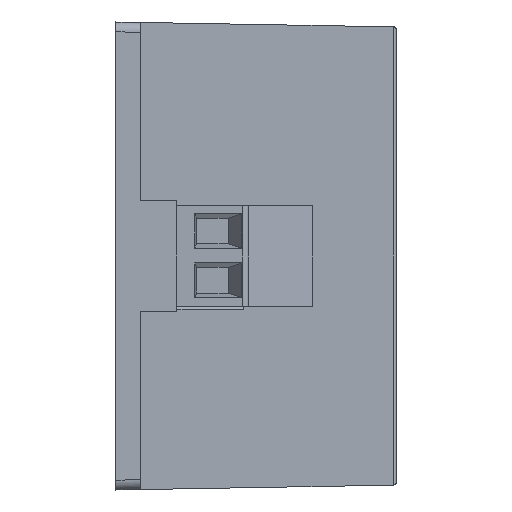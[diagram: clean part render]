
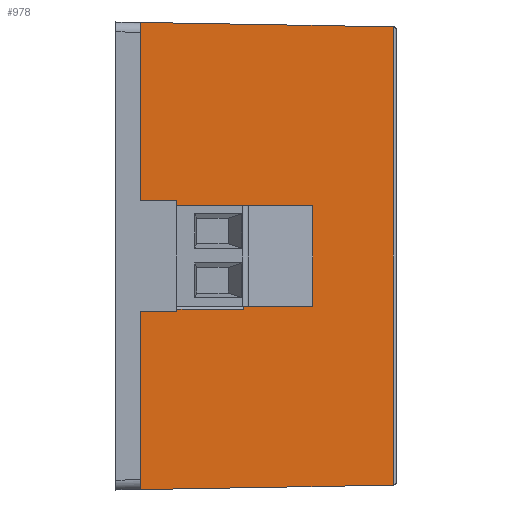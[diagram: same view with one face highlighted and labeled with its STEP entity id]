
A CAD part, left-side view. The second image highlights one B-rep face of the part: STEP entity #978.
In plain terms, the highlighted planar face has unit normal (-1, -0.018, 0).
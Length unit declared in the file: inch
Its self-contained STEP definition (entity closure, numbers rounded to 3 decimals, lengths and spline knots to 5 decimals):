
#166 = DIRECTION ( 'NONE',  ( -0.017, 1., 0.017 ) ) ;
#187 = LINE ( 'NONE', #18807, #5958 ) ;
#521 = LINE ( 'NONE', #16786, #6311 ) ;
#816 = VECTOR ( 'NONE', #21564, 39.37008 ) ;
#967 = VERTEX_POINT ( 'NONE', #3910 ) ;
#978 = ADVANCED_FACE ( 'NONE', ( #18346 ), #23739, .T. ) ;
#1321 = LINE ( 'NONE', #11883, #12891 ) ;
#1534 = DIRECTION ( 'NONE',  ( 0., 0., -1. ) ) ;
#1575 = DIRECTION ( 'NONE',  ( -0.017, 1., -0.017 ) ) ;
#1625 = ORIENTED_EDGE ( 'NONE', *, *, #26011, .T. ) ;
#2077 = ORIENTED_EDGE ( 'NONE', *, *, #7082, .T. ) ;
#2303 = CARTESIAN_POINT ( 'NONE',  ( -1.78117, -0.24409, -0.22015 ) ) ;
#2349 = CARTESIAN_POINT ( 'NONE',  ( -1.78372, -0.09843, -0.22269 ) ) ;
#3910 = CARTESIAN_POINT ( 'NONE',  ( -1.78372, -0.09843, 0.22269 ) ) ;
#3993 = ORIENTED_EDGE ( 'NONE', *, *, #14186, .T. ) ;
#4387 = VECTOR ( 'NONE', #20240, 39.37008 ) ;
#4796 = VECTOR ( 'NONE', #166, 39.37008 ) ;
#5381 = EDGE_CURVE ( 'NONE', #24095, #11467, #521, .T. ) ;
#5958 = VECTOR ( 'NONE', #23163, 39.37008 ) ;
#6311 = VECTOR ( 'NONE', #1575, 39.37008 ) ;
#6368 = CARTESIAN_POINT ( 'NONE',  ( -1.76608, -1.10847, -0.93504 ) ) ;
#6453 = DIRECTION ( 'NONE',  ( -1., -0.017, 0. ) ) ;
#7082 = EDGE_CURVE ( 'NONE', #967, #27466, #187, .T. ) ;
#7329 = CARTESIAN_POINT ( 'NONE',  ( -1.76608, -1.10847, 0.91569 ) ) ;
#7558 = EDGE_CURVE ( 'NONE', #11467, #9513, #8625, .T. ) ;
#8625 = LINE ( 'NONE', #13560, #25258 ) ;
#8958 = VECTOR ( 'NONE', #1534, 39.37008 ) ;
#9513 = VERTEX_POINT ( 'NONE', #16901 ) ;
#9929 = EDGE_LOOP ( 'NONE', ( #3993, #1625, #2077, #28131, #25800, #21519, #10258, #16320 ) ) ;
#10069 = CARTESIAN_POINT ( 'NONE',  ( -1.78372, -0.09843, -0.93504 ) ) ;
#10258 = ORIENTED_EDGE ( 'NONE', *, *, #23414, .T. ) ;
#10619 = VERTEX_POINT ( 'NONE', #15364 ) ;
#11467 = VERTEX_POINT ( 'NONE', #2349 ) ;
#11883 = CARTESIAN_POINT ( 'NONE',  ( -1.78372, -0.09843, -0.93332 ) ) ;
#12891 = VECTOR ( 'NONE', #14047, 39.37008 ) ;
#13560 = CARTESIAN_POINT ( 'NONE',  ( -1.78372, -0.09843, -0.93504 ) ) ;
#14047 = DIRECTION ( 'NONE',  ( 0.017, -1., 0.017 ) ) ;
#14186 = EDGE_CURVE ( 'NONE', #23363, #21781, #22127, .T. ) ;
#15364 = CARTESIAN_POINT ( 'NONE',  ( -1.76608, -1.10847, -0.91569 ) ) ;
#15864 = CARTESIAN_POINT ( 'NONE',  ( -1.78117, -0.24409, 0.22015 ) ) ;
#16320 = ORIENTED_EDGE ( 'NONE', *, *, #16882, .F. ) ;
#16786 = CARTESIAN_POINT ( 'NONE',  ( -1.78117, -0.24409, -0.22015 ) ) ;
#16882 = EDGE_CURVE ( 'NONE', #23363, #10619, #24590, .T. ) ;
#16901 = CARTESIAN_POINT ( 'NONE',  ( -1.78372, -0.09843, -0.93332 ) ) ;
#17613 = CARTESIAN_POINT ( 'NONE',  ( -1.78372, -0.09843, 0.93332 ) ) ;
#17832 = AXIS2_PLACEMENT_3D ( 'NONE', #19469, #6453, #21635 ) ;
#18346 = FACE_OUTER_BOUND ( 'NONE', #9929, .T. ) ;
#18807 = CARTESIAN_POINT ( 'NONE',  ( -1.78372, -0.09843, 0.22269 ) ) ;
#19469 = CARTESIAN_POINT ( 'NONE',  ( -1.78543, 0., -0.93504 ) ) ;
#20115 = DIRECTION ( 'NONE',  ( 0., 0., -1. ) ) ;
#20240 = DIRECTION ( 'NONE',  ( 0., 0., -1. ) ) ;
#21519 = ORIENTED_EDGE ( 'NONE', *, *, #7558, .T. ) ;
#21564 = DIRECTION ( 'NONE',  ( 0., 0., -1. ) ) ;
#21635 = DIRECTION ( 'NONE',  ( 0.017, -1., 0. ) ) ;
#21704 = LINE ( 'NONE', #22229, #4387 ) ;
#21781 = VERTEX_POINT ( 'NONE', #17613 ) ;
#22127 = LINE ( 'NONE', #26191, #4796 ) ;
#22229 = CARTESIAN_POINT ( 'NONE',  ( -1.78117, -0.24409, -0.93504 ) ) ;
#23163 = DIRECTION ( 'NONE',  ( 0.017, -1., -0.017 ) ) ;
#23363 = VERTEX_POINT ( 'NONE', #7329 ) ;
#23414 = EDGE_CURVE ( 'NONE', #9513, #10619, #1321, .T. ) ;
#23739 = PLANE ( 'NONE',  #17832 ) ;
#24095 = VERTEX_POINT ( 'NONE', #2303 ) ;
#24590 = LINE ( 'NONE', #6368, #816 ) ;
#25258 = VECTOR ( 'NONE', #20115, 39.37008 ) ;
#25800 = ORIENTED_EDGE ( 'NONE', *, *, #5381, .T. ) ;
#26011 = EDGE_CURVE ( 'NONE', #21781, #967, #26290, .T. ) ;
#26191 = CARTESIAN_POINT ( 'NONE',  ( -1.76608, -1.10847, 0.91569 ) ) ;
#26290 = LINE ( 'NONE', #10069, #8958 ) ;
#27028 = EDGE_CURVE ( 'NONE', #27466, #24095, #21704, .T. ) ;
#27466 = VERTEX_POINT ( 'NONE', #15864 ) ;
#28131 = ORIENTED_EDGE ( 'NONE', *, *, #27028, .T. ) ;
